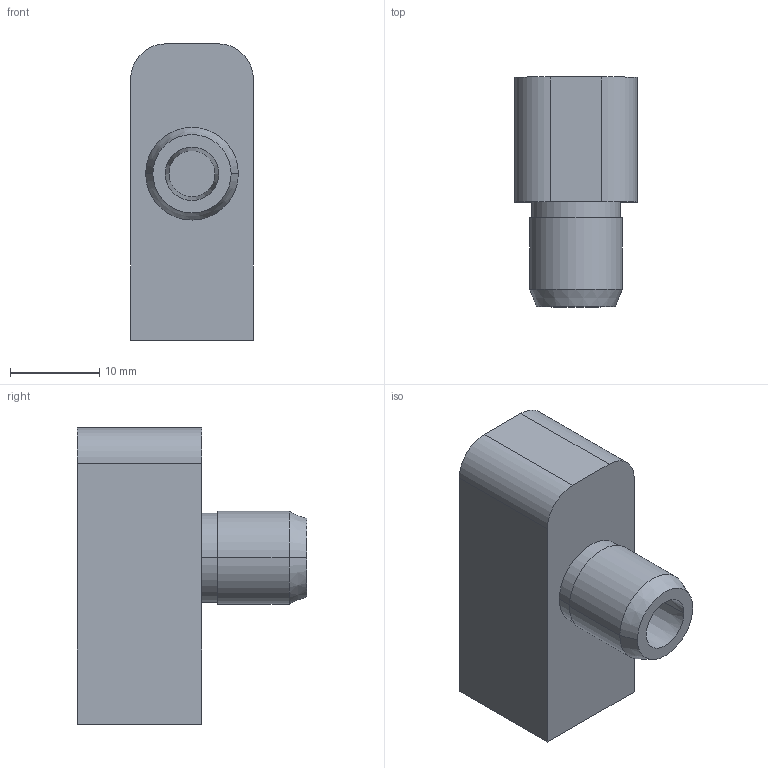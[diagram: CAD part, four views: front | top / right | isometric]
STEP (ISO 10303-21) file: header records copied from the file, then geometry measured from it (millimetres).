
FILE_DESCRIPTION (( 'STEP AP214' ), '1' );
FILE_NAME ('Relinghalter 6150 Einpressen.STEP', '2010-09-07T11:49:06', ( 'grass' ), ( '' ), 'SwSTEP 2.0', 'SolidWorks 2010', '' );
FILE_SCHEMA (( 'AUTOMOTIVE_DESIGN' ));
Length unit declared in the file: millimetre
Products named in the file (1): Relinghalter 6150 Einpressen
Bounding box: 13.8 x 25.8 x 33.3 mm (x, y, z)
Volume: 3118.9 mm3; surface area: 3708.3 mm2
Topology: 1 solids, 1 shells, 26 faces, 58 edges, 38 vertices
Faces by surface type: plane 14, cylinder 8, cone 4
Entity records: 762 total; most frequent: DIRECTION 134, CARTESIAN_POINT 123, ORIENTED_EDGE 116, EDGE_CURVE 58, AXIS2_PLACEMENT_3D 49, VERTEX_POINT 38, LINE 36, VECTOR 36
